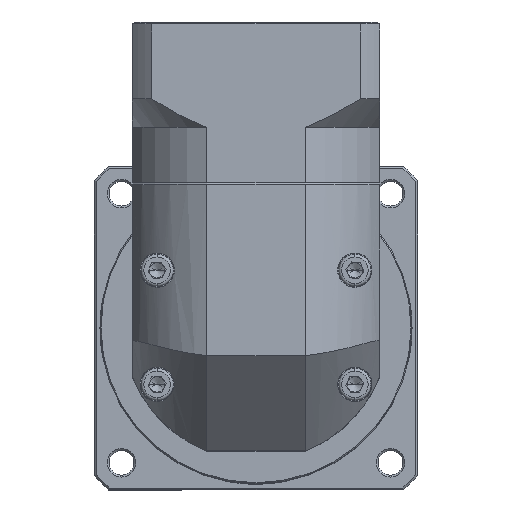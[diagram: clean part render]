
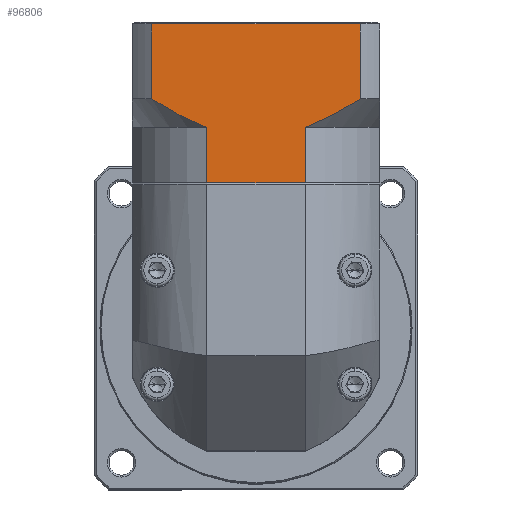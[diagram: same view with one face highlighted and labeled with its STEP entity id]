
A CAD part, top view. The second image highlights one B-rep face of the part: STEP entity #96806.
In plain terms, the highlighted planar face has unit normal (0, 0, 1).
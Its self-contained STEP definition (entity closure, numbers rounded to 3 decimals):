
#3094 = CARTESIAN_POINT ( 'NONE',  ( -53.786, 80.164, 37.988 ) ) ;
#4021 = CARTESIAN_POINT ( 'NONE',  ( -55.067, 79.673, 37.988 ) ) ;
#4929 = EDGE_CURVE ( 'NONE', #114530, #128477, #11543, .T. ) ;
#6087 = VERTEX_POINT ( 'NONE', #40072 ) ;
#7170 = VECTOR ( 'NONE', #70769, 1000. ) ;
#11543 = B_SPLINE_CURVE_WITH_KNOTS ( 'NONE', 3,
 ( #4021, #100606, #3094, #24384, #14601, #111318, #46692, #36511, #110393, #77416 ),
 .UNSPECIFIED., .F., .F.,
 ( 4, 2, 2, 2, 4 ),
 ( 0.101, 0.103, 0.105, 0.109, 0.117 ),
 .UNSPECIFIED. ) ;
#11565 = EDGE_CURVE ( 'NONE', #6087, #130381, #34846, .T. ) ;
#11719 = VERTEX_POINT ( 'NONE', #96661 ) ;
#12263 = PLANE ( 'NONE',  #94074 ) ;
#12469 = CARTESIAN_POINT ( 'NONE',  ( -55.067, 79.673, 37.988 ) ) ;
#14601 = CARTESIAN_POINT ( 'NONE',  ( -51.9, 80.963, 37.988 ) ) ;
#15636 = ORIENTED_EDGE ( 'NONE', *, *, #121858, .F. ) ;
#18104 = VECTOR ( 'NONE', #123691, 1000. ) ;
#23666 = DIRECTION ( 'NONE',  ( 0., 1., 0. ) ) ;
#23847 = CARTESIAN_POINT ( 'NONE',  ( -93.154, 85.724, 37.988 ) ) ;
#24384 = CARTESIAN_POINT ( 'NONE',  ( -52.524, 80.689, 37.988 ) ) ;
#27853 = EDGE_CURVE ( 'NONE', #114530, #130381, #91480, .T. ) ;
#28533 = ORIENTED_EDGE ( 'NONE', *, *, #11565, .T. ) ;
#34846 = LINE ( 'NONE', #101892, #18104 ) ;
#36370 = VERTEX_POINT ( 'NONE', #55833 ) ;
#36511 = CARTESIAN_POINT ( 'NONE',  ( -45.253, 84.324, 37.988 ) ) ;
#40072 = CARTESIAN_POINT ( 'NONE',  ( -81.048, 65.173, 37.988 ) ) ;
#40640 = VECTOR ( 'NONE', #117042, 1000. ) ;
#44244 = EDGE_CURVE ( 'NONE', #92637, #11719, #68996, .T. ) ;
#44602 = LINE ( 'NONE', #85528, #84463 ) ;
#45711 = CARTESIAN_POINT ( 'NONE',  ( -94.305, 86.439, 37.988 ) ) ;
#46692 = CARTESIAN_POINT ( 'NONE',  ( -48.834, 82.419, 37.988 ) ) ;
#47576 = EDGE_LOOP ( 'NONE', ( #67610, #117929, #15636, #120758, #63204, #28533, #88388, #92083 ) ) ;
#52974 = FACE_OUTER_BOUND ( 'NONE', #47576, .T. ) ;
#55833 = CARTESIAN_POINT ( 'NONE',  ( -95.443, 87.173, 37.988 ) ) ;
#55919 = CARTESIAN_POINT ( 'NONE',  ( -83.586, 80.615, 37.988 ) ) ;
#57093 = CARTESIAN_POINT ( 'NONE',  ( -55.067, 79.673, 37.988 ) ) ;
#58453 = DIRECTION ( 'NONE',  ( 0., -1., 0. ) ) ;
#63204 = ORIENTED_EDGE ( 'NONE', *, *, #127592, .F. ) ;
#65242 = CARTESIAN_POINT ( 'NONE',  ( -40.671, 106.873, 37.988 ) ) ;
#67610 = ORIENTED_EDGE ( 'NONE', *, *, #108951, .F. ) ;
#68996 = LINE ( 'NONE', #73401, #40640 ) ;
#69950 = VECTOR ( 'NONE', #58453, 1000. ) ;
#70769 = DIRECTION ( 'NONE',  ( 0., -1., 0. ) ) ;
#73401 = CARTESIAN_POINT ( 'NONE',  ( -100.557, 106.873, 37.988 ) ) ;
#76430 = CARTESIAN_POINT ( 'NONE',  ( -95.443, 87.173, 37.988 ) ) ;
#76598 = CARTESIAN_POINT ( 'NONE',  ( -40.671, 87.173, 37.988 ) ) ;
#77416 = CARTESIAN_POINT ( 'NONE',  ( -40.671, 87.173, 37.988 ) ) ;
#79183 = CARTESIAN_POINT ( 'NONE',  ( -81.048, 79.673, 37.988 ) ) ;
#81983 = LINE ( 'NONE', #134440, #7170 ) ;
#84282 = VECTOR ( 'NONE', #88514, 1000. ) ;
#84463 = VECTOR ( 'NONE', #23666, 1000. ) ;
#85528 = CARTESIAN_POINT ( 'NONE',  ( -95.443, 79.673, 37.988 ) ) ;
#86168 = CARTESIAN_POINT ( 'NONE',  ( -90.819, 84.34, 37.988 ) ) ;
#88388 = ORIENTED_EDGE ( 'NONE', *, *, #27853, .F. ) ;
#88514 = DIRECTION ( 'NONE',  ( 0., 1., 0. ) ) ;
#89410 = DIRECTION ( 'NONE',  ( 0., 1., 0. ) ) ;
#90930 = LINE ( 'NONE', #130815, #84282 ) ;
#91430 = CARTESIAN_POINT ( 'NONE',  ( -81.048, 79.673, 37.988 ) ) ;
#91480 = LINE ( 'NONE', #57093, #69950 ) ;
#92083 = ORIENTED_EDGE ( 'NONE', *, *, #4929, .T. ) ;
#92637 = VERTEX_POINT ( 'NONE', #65242 ) ;
#94074 = AXIS2_PLACEMENT_3D ( 'NONE', #98257, #120100, #89410 ) ;
#96661 = CARTESIAN_POINT ( 'NONE',  ( -95.443, 106.873, 37.988 ) ) ;
#96806 = ADVANCED_FACE ( 'NONE', ( #52974 ), #12263, .F. ) ;
#98232 = CARTESIAN_POINT ( 'NONE',  ( -89.633, 83.67, 37.988 ) ) ;
#98257 = CARTESIAN_POINT ( 'NONE',  ( -100.557, 107.373, 37.988 ) ) ;
#100606 = CARTESIAN_POINT ( 'NONE',  ( -54.425, 79.911, 37.988 ) ) ;
#101892 = CARTESIAN_POINT ( 'NONE',  ( -100.557, 65.173, 37.988 ) ) ;
#102175 = EDGE_CURVE ( 'NONE', #36370, #114714, #134597, .T. ) ;
#102396 = CARTESIAN_POINT ( 'NONE',  ( -55.067, 65.173, 37.988 ) ) ;
#108951 = EDGE_CURVE ( 'NONE', #92637, #128477, #81983, .T. ) ;
#108955 = CARTESIAN_POINT ( 'NONE',  ( -86.038, 81.759, 37.988 ) ) ;
#110393 = CARTESIAN_POINT ( 'NONE',  ( -42.939, 85.711, 37.988 ) ) ;
#111318 = CARTESIAN_POINT ( 'NONE',  ( -50.047, 81.814, 37.988 ) ) ;
#114530 = VERTEX_POINT ( 'NONE', #12469 ) ;
#114714 = VERTEX_POINT ( 'NONE', #91430 ) ;
#117042 = DIRECTION ( 'NONE',  ( -1., 0., 0. ) ) ;
#117929 = ORIENTED_EDGE ( 'NONE', *, *, #44244, .T. ) ;
#120100 = DIRECTION ( 'NONE',  ( 0., 0., -1. ) ) ;
#120758 = ORIENTED_EDGE ( 'NONE', *, *, #102175, .T. ) ;
#121858 = EDGE_CURVE ( 'NONE', #36370, #11719, #44602, .T. ) ;
#123691 = DIRECTION ( 'NONE',  ( 1., 0., 0. ) ) ;
#127592 = EDGE_CURVE ( 'NONE', #6087, #114714, #90930, .T. ) ;
#128477 = VERTEX_POINT ( 'NONE', #76598 ) ;
#130381 = VERTEX_POINT ( 'NONE', #102396 ) ;
#130815 = CARTESIAN_POINT ( 'NONE',  ( -81.048, 79.673, 37.988 ) ) ;
#134440 = CARTESIAN_POINT ( 'NONE',  ( -40.671, 79.673, 37.988 ) ) ;
#134597 = B_SPLINE_CURVE_WITH_KNOTS ( 'NONE', 3,
 ( #76430, #45711, #23847, #86168, #98232, #108955, #55919, #79183 ),
 .UNSPECIFIED., .F., .F.,
 ( 4, 2, 2, 4 ),
 ( 0.058, 0.062, 0.066, 0.074 ),
 .UNSPECIFIED. ) ;
